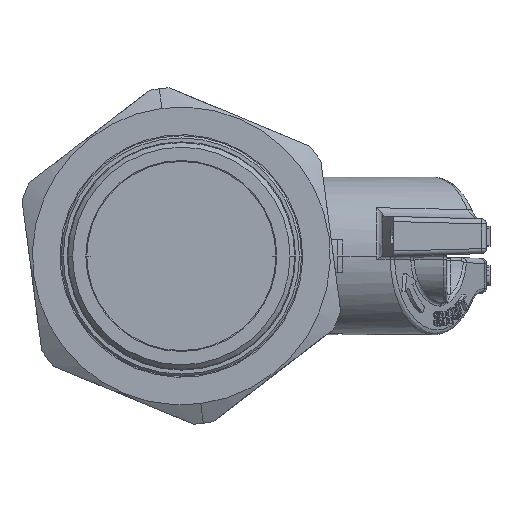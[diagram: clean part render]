
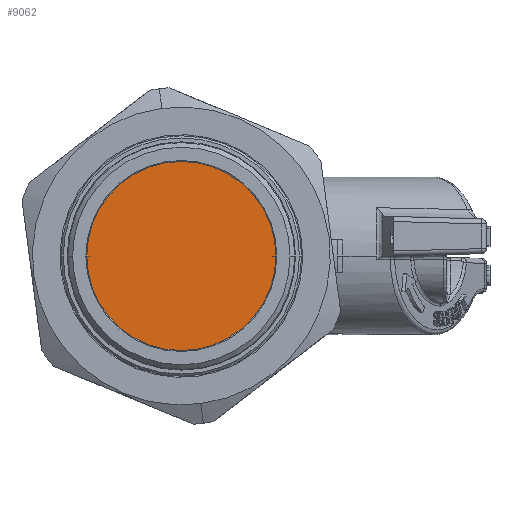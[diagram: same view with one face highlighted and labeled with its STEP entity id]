
A CAD part, front view. The second image highlights one B-rep face of the part: STEP entity #9062.
In plain terms, the highlighted planar face has unit normal (0, -1, 0) as drawn and (1, 0, 0) by its records, which use the part's own axes.
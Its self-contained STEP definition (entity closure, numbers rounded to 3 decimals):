
#9005=CARTESIAN_POINT('',(20.,0.,0.));
#9006=DIRECTION('',(1.,0.,0.));
#9007=DIRECTION('',(0.,1.,0.));
#9008=AXIS2_PLACEMENT_3D('',#9005,#9006,#9007);
#9014=CARTESIAN_POINT('',(20.,0.,0.));
#9015=DIRECTION('',(-1.,0.,0.));
#9016=DIRECTION('',(0.,1.,0.));
#9017=AXIS2_PLACEMENT_3D('',#9014,#9015,#9016);
#9039=CARTESIAN_POINT('',(20.,13.176,0.));
#9041=VERTEX_POINT('',#9039);
#9043=CARTESIAN_POINT('',(20.,-13.176,0.));
#9045=VERTEX_POINT('',#9043);
#9051=CARTESIAN_POINT('',(20.,0.,0.));
#9052=DIRECTION('',(-1.,0.,0.));
#9053=DIRECTION('',(0.,1.,0.));
#9054=AXIS2_PLACEMENT_3D('',#9051,#9052,#9053);
#9055=PLANE('',#9054);
#9057=ORIENTED_EDGE('',*,*,#9056,.F.);
#9059=ORIENTED_EDGE('',*,*,#9058,.T.);
#9060=EDGE_LOOP('',(#9057,#9059));
#9061=FACE_OUTER_BOUND('',#9060,.F.);
#9062=ADVANCED_FACE('',(#9061),#9055,.F.);
#9009=CIRCLE('',#9008,13.176);
#9018=CIRCLE('',#9017,13.176);
#9056=EDGE_CURVE('',#9041,#9045,#9009,.T.);
#9058=EDGE_CURVE('',#9041,#9045,#9018,.T.);
